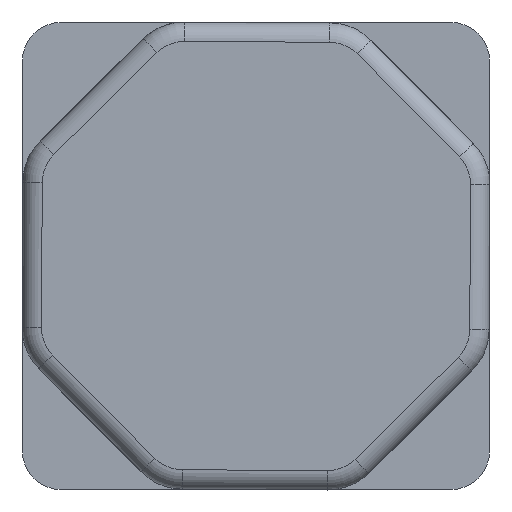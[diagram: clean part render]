
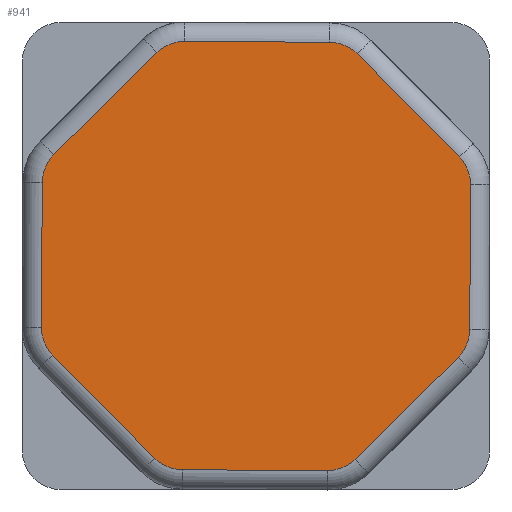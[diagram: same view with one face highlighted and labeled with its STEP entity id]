
A CAD part, left-side view. The second image highlights one B-rep face of the part: STEP entity #941.
In plain terms, the highlighted planar face has unit normal (-1, 0, 0).
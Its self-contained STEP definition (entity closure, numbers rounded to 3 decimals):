
#17 = CARTESIAN_POINT ( 'NONE',  ( -340., 25.984, -51.935 ) ) ;
#46 = CIRCLE ( 'NONE', #2609, 10. ) ;
#47 = LINE ( 'NONE', #2707, #1628 ) ;
#74 = CARTESIAN_POINT ( 'NONE',  ( -340., 55.097, -18.35 ) ) ;
#80 = CIRCLE ( 'NONE', #2332, 10. ) ;
#97 = LINE ( 'NONE', #3079, #1565 ) ;
#109 = EDGE_CURVE ( 'NONE', #1625, #2293, #46, .T. ) ;
#132 = VERTEX_POINT ( 'NONE', #1642 ) ;
#152 = DIRECTION ( 'NONE',  ( 0., 0., 1. ) ) ;
#194 = CIRCLE ( 'NONE', #1838, 10. ) ;
#230 = ORIENTED_EDGE ( 'NONE', *, *, #3068, .T. ) ;
#287 = LINE ( 'NONE', #3269, #1183 ) ;
#305 = DIRECTION ( 'NONE',  ( -1., 0., 0. ) ) ;
#349 = CARTESIAN_POINT ( 'NONE',  ( -340., -18.35, -55.097 ) ) ;
#367 = AXIS2_PLACEMENT_3D ( 'NONE', #1728, #1385, #1030 ) ;
#415 = VECTOR ( 'NONE', #1859, 1000. ) ;
#439 = EDGE_LOOP ( 'NONE', ( #1000, #2267, #2137, #3000, #1515, #1317, #2495, #556, #1372, #485, #230, #2426, #1861, #493, #1739, #2681, #2203 ) ) ;
#485 = ORIENTED_EDGE ( 'NONE', *, *, #2442, .T. ) ;
#493 = ORIENTED_EDGE ( 'NONE', *, *, #2509, .T. ) ;
#499 = DIRECTION ( 'NONE',  ( -1., 0., 0. ) ) ;
#556 = ORIENTED_EDGE ( 'NONE', *, *, #2003, .T. ) ;
#558 = CIRCLE ( 'NONE', #1998, 10. ) ;
#659 = CARTESIAN_POINT ( 'NONE',  ( -340., -44.901, -18.876 ) ) ;
#668 = CARTESIAN_POINT ( 'NONE',  ( -340., -18.403, -45.097 ) ) ;
#671 = CARTESIAN_POINT ( 'NONE',  ( -340., 52.206, -25.436 ) ) ;
#678 = EDGE_CURVE ( 'NONE', #1277, #1625, #97, .T. ) ;
#696 = LINE ( 'NONE', #349, #1163 ) ;
#802 = CIRCLE ( 'NONE', #2505, 10. ) ;
#812 = EDGE_CURVE ( 'NONE', #2370, #3037, #2373, .T. ) ;
#835 = DIRECTION ( 'NONE',  ( 0., 0.711, -0.703 ) ) ;
#872 = CARTESIAN_POINT ( 'NONE',  ( -340., -18.35, -55.097 ) ) ;
#889 = CARTESIAN_POINT ( 'NONE',  ( -340., 18.35, 55.097 ) ) ;
#891 = EDGE_CURVE ( 'NONE', #1854, #3198, #2206, .T. ) ;
#936 = VERTEX_POINT ( 'NONE', #74 ) ;
#941 = ADVANCED_FACE ( 'NONE', ( #2567 ), #2054, .T. ) ;
#978 = AXIS2_PLACEMENT_3D ( 'NONE', #2645, #1648, #1296 ) ;
#1000 = ORIENTED_EDGE ( 'NONE', *, *, #1699, .T. ) ;
#1008 = DIRECTION ( 'NONE',  ( 0., 0., 1. ) ) ;
#1012 = VERTEX_POINT ( 'NONE', #872 ) ;
#1015 = DIRECTION ( 'NONE',  ( 0., 0., 1. ) ) ;
#1030 = DIRECTION ( 'NONE',  ( 0., 0., 1. ) ) ;
#1142 = VERTEX_POINT ( 'NONE', #889 ) ;
#1163 = VECTOR ( 'NONE', #3319, 1000. ) ;
#1172 = VERTEX_POINT ( 'NONE', #3279 ) ;
#1181 = CARTESIAN_POINT ( 'NONE',  ( -340., 51.935, 25.984 ) ) ;
#1183 = VECTOR ( 'NONE', #2934, 1000. ) ;
#1191 = CARTESIAN_POINT ( 'NONE',  ( -340., 18.876, -44.901 ) ) ;
#1251 = EDGE_CURVE ( 'NONE', #1709, #2370, #47, .T. ) ;
#1277 = VERTEX_POINT ( 'NONE', #671 ) ;
#1296 = DIRECTION ( 'NONE',  ( 0., 0., 1. ) ) ;
#1316 = CARTESIAN_POINT ( 'NONE',  ( -340., 18.403, 45.097 ) ) ;
#1317 = ORIENTED_EDGE ( 'NONE', *, *, #1251, .T. ) ;
#1336 = CARTESIAN_POINT ( 'NONE',  ( -340., 18.403, 55.097 ) ) ;
#1354 = DIRECTION ( 'NONE',  ( -1., 0., 0. ) ) ;
#1366 = DIRECTION ( 'NONE',  ( -1., 0., 0. ) ) ;
#1370 = AXIS2_PLACEMENT_3D ( 'NONE', #1711, #1366, #1015 ) ;
#1372 = ORIENTED_EDGE ( 'NONE', *, *, #3133, .T. ) ;
#1385 = DIRECTION ( 'NONE',  ( -1., 0., 0. ) ) ;
#1505 = CARTESIAN_POINT ( 'NONE',  ( -340., -51.935, -25.984 ) ) ;
#1515 = ORIENTED_EDGE ( 'NONE', *, *, #1705, .T. ) ;
#1554 = CARTESIAN_POINT ( 'NONE',  ( -340., 25.436, 52.206 ) ) ;
#1565 = VECTOR ( 'NONE', #2749, 1000. ) ;
#1620 = CARTESIAN_POINT ( 'NONE',  ( -340., -25.436, -52.206 ) ) ;
#1625 = VERTEX_POINT ( 'NONE', #17 ) ;
#1628 = VECTOR ( 'NONE', #2369, 1000. ) ;
#1642 = CARTESIAN_POINT ( 'NONE',  ( -340., -25.984, 51.935 ) ) ;
#1648 = DIRECTION ( 'NONE',  ( -1., 0., 0. ) ) ;
#1699 = EDGE_CURVE ( 'NONE', #936, #1277, #80, .T. ) ;
#1704 = CARTESIAN_POINT ( 'NONE',  ( -340., 45.097, -18.403 ) ) ;
#1705 = EDGE_CURVE ( 'NONE', #1012, #1709, #802, .T. ) ;
#1709 = VERTEX_POINT ( 'NONE', #1620 ) ;
#1711 = CARTESIAN_POINT ( 'NONE',  ( -340., 18.403, 45.097 ) ) ;
#1728 = CARTESIAN_POINT ( 'NONE',  ( -340., 18.876, -44.901 ) ) ;
#1739 = ORIENTED_EDGE ( 'NONE', *, *, #891, .T. ) ;
#1785 = VERTEX_POINT ( 'NONE', #2722 ) ;
#1838 = AXIS2_PLACEMENT_3D ( 'NONE', #3071, #2409, #2065 ) ;
#1854 = VERTEX_POINT ( 'NONE', #1554 ) ;
#1859 = DIRECTION ( 'NONE',  ( 0., 0.703, 0.711 ) ) ;
#1861 = ORIENTED_EDGE ( 'NONE', *, *, #2713, .T. ) ;
#1883 = DIRECTION ( 'NONE',  ( 0., 0.005, -1. ) ) ;
#1935 = VERTEX_POINT ( 'NONE', #3165 ) ;
#1975 = CARTESIAN_POINT ( 'NONE',  ( -340., -54.901, -18.929 ) ) ;
#1996 = CIRCLE ( 'NONE', #978, 10. ) ;
#1998 = AXIS2_PLACEMENT_3D ( 'NONE', #3127, #2792, #2465 ) ;
#2003 = EDGE_CURVE ( 'NONE', #3037, #1785, #287, .T. ) ;
#2054 = PLANE ( 'NONE',  #367 ) ;
#2065 = DIRECTION ( 'NONE',  ( 0., 0., 1. ) ) ;
#2122 = VECTOR ( 'NONE', #835, 1000. ) ;
#2137 = ORIENTED_EDGE ( 'NONE', *, *, #109, .T. ) ;
#2179 = EDGE_CURVE ( 'NONE', #3198, #1935, #558, .T. ) ;
#2200 = CARTESIAN_POINT ( 'NONE',  ( -340., -25.984, 51.935 ) ) ;
#2203 = ORIENTED_EDGE ( 'NONE', *, *, #2574, .T. ) ;
#2206 = LINE ( 'NONE', #1181, #2122 ) ;
#2224 = CARTESIAN_POINT ( 'NONE',  ( -340., 55.097, -18.35 ) ) ;
#2267 = ORIENTED_EDGE ( 'NONE', *, *, #678, .T. ) ;
#2293 = VERTEX_POINT ( 'NONE', #2402 ) ;
#2294 = DIRECTION ( 'NONE',  ( 0., 1., 0.005 ) ) ;
#2327 = EDGE_CURVE ( 'NONE', #2293, #1012, #696, .T. ) ;
#2332 = AXIS2_PLACEMENT_3D ( 'NONE', #1704, #1354, #1008 ) ;
#2369 = DIRECTION ( 'NONE',  ( 0., -0.711, 0.703 ) ) ;
#2370 = VERTEX_POINT ( 'NONE', #1505 ) ;
#2372 = CIRCLE ( 'NONE', #1370, 10. ) ;
#2373 = CIRCLE ( 'NONE', #2998, 10. ) ;
#2389 = VECTOR ( 'NONE', #1883, 1000. ) ;
#2402 = CARTESIAN_POINT ( 'NONE',  ( -340., 18.929, -54.901 ) ) ;
#2409 = DIRECTION ( 'NONE',  ( -1., 0., 0. ) ) ;
#2426 = ORIENTED_EDGE ( 'NONE', *, *, #2949, .T. ) ;
#2442 = EDGE_CURVE ( 'NONE', #3115, #132, #2531, .T. ) ;
#2465 = DIRECTION ( 'NONE',  ( 0., 0., 1. ) ) ;
#2480 = AXIS2_PLACEMENT_3D ( 'NONE', #1316, #3260, #2925 ) ;
#2495 = ORIENTED_EDGE ( 'NONE', *, *, #812, .T. ) ;
#2505 = AXIS2_PLACEMENT_3D ( 'NONE', #668, #3294, #2963 ) ;
#2509 = EDGE_CURVE ( 'NONE', #2834, #1854, #2372, .T. ) ;
#2531 = LINE ( 'NONE', #2200, #415 ) ;
#2550 = LINE ( 'NONE', #2224, #2389 ) ;
#2567 = FACE_OUTER_BOUND ( 'NONE', #439, .T. ) ;
#2574 = EDGE_CURVE ( 'NONE', #1935, #936, #2550, .T. ) ;
#2609 = AXIS2_PLACEMENT_3D ( 'NONE', #1191, #499, #152 ) ;
#2624 = CARTESIAN_POINT ( 'NONE',  ( -340., 18.35, 55.097 ) ) ;
#2625 = CIRCLE ( 'NONE', #2480, 10. ) ;
#2645 = CARTESIAN_POINT ( 'NONE',  ( -340., -18.876, 44.901 ) ) ;
#2681 = ORIENTED_EDGE ( 'NONE', *, *, #2179, .T. ) ;
#2707 = CARTESIAN_POINT ( 'NONE',  ( -340., -51.935, -25.984 ) ) ;
#2713 = EDGE_CURVE ( 'NONE', #1142, #2834, #2625, .T. ) ;
#2722 = CARTESIAN_POINT ( 'NONE',  ( -340., -55.097, 18.35 ) ) ;
#2742 = CARTESIAN_POINT ( 'NONE',  ( -340., -52.206, 25.436 ) ) ;
#2749 = DIRECTION ( 'NONE',  ( 0., -0.703, -0.711 ) ) ;
#2760 = CARTESIAN_POINT ( 'NONE',  ( -340., 51.935, 25.984 ) ) ;
#2792 = DIRECTION ( 'NONE',  ( -1., 0., 0. ) ) ;
#2828 = VECTOR ( 'NONE', #2294, 1000. ) ;
#2834 = VERTEX_POINT ( 'NONE', #1336 ) ;
#2925 = DIRECTION ( 'NONE',  ( 0., 0., 1. ) ) ;
#2934 = DIRECTION ( 'NONE',  ( 0., -0.005, 1. ) ) ;
#2949 = EDGE_CURVE ( 'NONE', #1172, #1142, #2969, .T. ) ;
#2963 = DIRECTION ( 'NONE',  ( 0., 0., 1. ) ) ;
#2969 = LINE ( 'NONE', #2624, #2828 ) ;
#2998 = AXIS2_PLACEMENT_3D ( 'NONE', #659, #305, #3285 ) ;
#3000 = ORIENTED_EDGE ( 'NONE', *, *, #2327, .T. ) ;
#3037 = VERTEX_POINT ( 'NONE', #1975 ) ;
#3068 = EDGE_CURVE ( 'NONE', #132, #1172, #1996, .T. ) ;
#3071 = CARTESIAN_POINT ( 'NONE',  ( -340., -45.097, 18.403 ) ) ;
#3079 = CARTESIAN_POINT ( 'NONE',  ( -340., 25.984, -51.935 ) ) ;
#3115 = VERTEX_POINT ( 'NONE', #2742 ) ;
#3127 = CARTESIAN_POINT ( 'NONE',  ( -340., 44.901, 18.876 ) ) ;
#3133 = EDGE_CURVE ( 'NONE', #1785, #3115, #194, .T. ) ;
#3165 = CARTESIAN_POINT ( 'NONE',  ( -340., 54.901, 18.929 ) ) ;
#3198 = VERTEX_POINT ( 'NONE', #2760 ) ;
#3260 = DIRECTION ( 'NONE',  ( -1., 0., 0. ) ) ;
#3269 = CARTESIAN_POINT ( 'NONE',  ( -340., -55.097, 18.35 ) ) ;
#3279 = CARTESIAN_POINT ( 'NONE',  ( -340., -18.929, 54.901 ) ) ;
#3285 = DIRECTION ( 'NONE',  ( 0., 0., 1. ) ) ;
#3294 = DIRECTION ( 'NONE',  ( -1., 0., 0. ) ) ;
#3319 = DIRECTION ( 'NONE',  ( 0., -1., -0.005 ) ) ;
